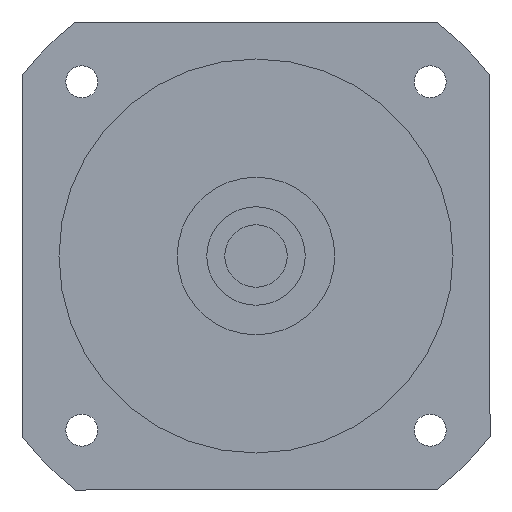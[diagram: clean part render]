
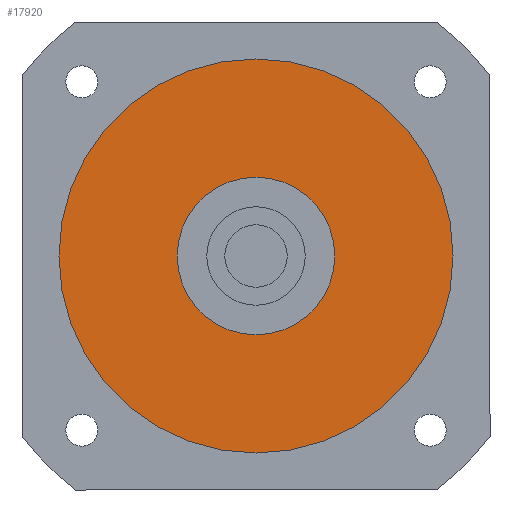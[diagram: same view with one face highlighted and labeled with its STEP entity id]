
A CAD part, left-side view. The second image highlights one B-rep face of the part: STEP entity #17920.
In plain terms, the highlighted planar face has unit normal (-1, 0, 0) as drawn and (0, 0, -1) by its records, which use the part's own axes.
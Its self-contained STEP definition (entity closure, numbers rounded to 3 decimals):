
#17380=CARTESIAN_POINT('',(-40.,0.,-88.5));
#17390=VERTEX_POINT('',#17380);
#17480=CARTESIAN_POINT('',(40.,0.,-88.5));
#17490=VERTEX_POINT('',#17480);
#17520=CARTESIAN_POINT('',(0.,0.,
-88.5));
#17530=DIRECTION('',(0.,0.,1.));
#17540=DIRECTION('',(0.,-1.,0.));
#17550=AXIS2_PLACEMENT_3D('',#17520,#17530,#17540);
#17560=CIRCLE('',#17550,40.);
#17570=CARTESIAN_POINT('',(0.,-40.,-88.5));
#17580=VERTEX_POINT('',#17570);
#17590=EDGE_CURVE('',#17580,#17490,#17560,.T.);
#17610=EDGE_CURVE('',#17390,#17580,#17560,.T.);
#17660=CARTESIAN_POINT('',(0.,0.,
-88.5));
#17670=DIRECTION('',(0.,0.,1.));
#17680=DIRECTION('',(-1.,0.,0.));
#17690=AXIS2_PLACEMENT_3D('',#17660,#17670,#17680);
#17700=PLANE('',#17690);
#17710=ORIENTED_EDGE('',*,*,#17590,.F.);
#17720=EDGE_CURVE('',#17490,#17390,#17560,.T.);
#17730=ORIENTED_EDGE('',*,*,#17720,.F.);
#17740=ORIENTED_EDGE('',*,*,#17610,.F.);
#17750=EDGE_LOOP('',(#17740,#17730,#17710));
#17760=FACE_OUTER_BOUND('',#17750,.T.);
#17770=CARTESIAN_POINT('',(0.,0.,-88.5
));
#17780=DIRECTION('',(0.,0.,1.));
#17790=DIRECTION('',(0.,-1.,0.));
#17800=AXIS2_PLACEMENT_3D('',#17770,#17780,#17790);
#17810=CIRCLE('',#17800,16.);
#17820=CARTESIAN_POINT('',(-16.,0.,-88.5));
#17830=VERTEX_POINT('',#17820);
#17840=CARTESIAN_POINT('',(16.,0.,-88.5));
#17850=VERTEX_POINT('',#17840);
#17860=EDGE_CURVE('',#17830,#17850,#17810,.T.);
#17870=ORIENTED_EDGE('',*,*,#17860,.T.);
#17880=EDGE_CURVE('',#17850,#17830,#17810,.T.);
#17890=ORIENTED_EDGE('',*,*,#17880,.T.);
#17900=EDGE_LOOP('',(#17890,#17870));
#17910=FACE_BOUND('',#17900,.T.);
#17920=ADVANCED_FACE('',(#17760,#17910),#17700,.F.);
